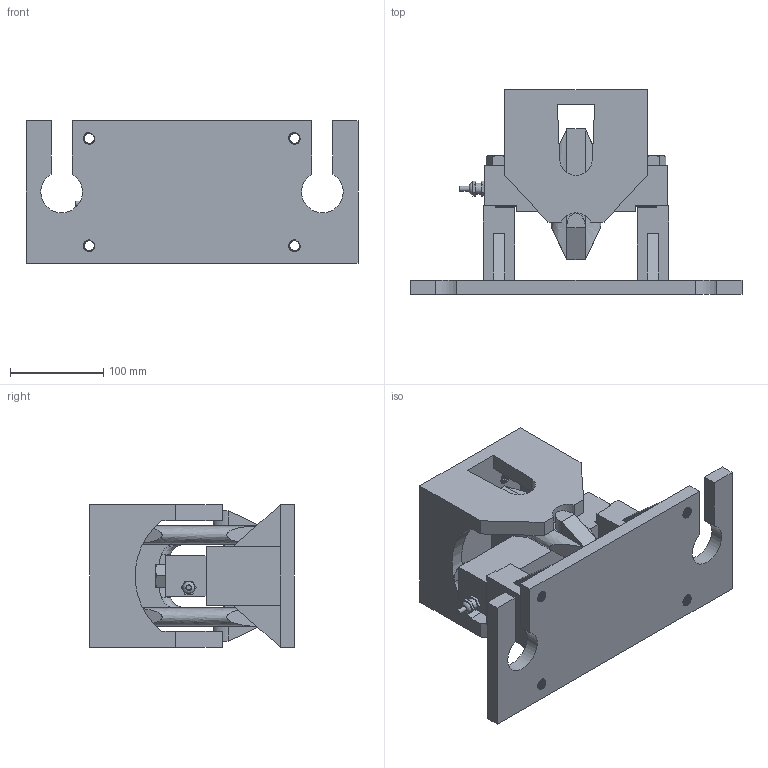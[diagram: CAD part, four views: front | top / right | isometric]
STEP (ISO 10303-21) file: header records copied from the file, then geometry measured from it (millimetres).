
FILE_DESCRIPTION(/* description */ (''),/* implementation_level */ '2;1');
FILE_NAME(/* name */ 'C:/Users/fardi/Dropbox/Work/Anyload/Load Cell Models/Product Catalog 3D/Weight Modules/102/102BHM1/102BHM1-(10-25)klb v11.step',/* time_stamp */ '2020-04-02T11:34:48-07:00',/* author */ (''),/* organization */ (''),/* preprocessor_version */ 'ST-DEVELOPER v18',/* originating_system */ 'Autodesk Translation Framework v8.12.0.6',/* authorisation */ '');
FILE_SCHEMA (('AUTOMOTIVE_DESIGN { 1 0 10303 214 3 1 1 }'));
Products named in the file (8): 102BHM1-(10-25)klb; Base; 102BH-(10-25)klb; Connector; 91257A804; 91257A804(Mirror); Middle Piece; Top Piece
Assembly tree (7 placements, depth 3):
  102BHM1-(10-25)klb
    Base
    102BH-(10-25)klb
      Connector
    91257A804
    91257A804(Mirror)
    Middle Piece
    Top Piece
Bounding box: 355.6 x 219 x 152.4 mm (x, y, z)
Volume: 2840178.9 mm3; surface area: 418693.1 mm2
Topology: 7 solids, 7 shells, 595 faces, 1609 edges, 1043 vertices
Faces by surface type: cylinder 356, plane 177, bspline 41, cone 21
Full cylindrical faces by diameter (mm): 5.1 x1, 10 x1, 10.808 x28, 12 x2, 12.7 x28, 12.875 x30, 13 x1, 13.627 x80, 15.875 x100, 17.272 x2
Entity records: 50031 total; most frequent: CARTESIAN_POINT 36216, ORIENTED_EDGE 3216, DIRECTION 2273, EDGE_CURVE 1608, VERTEX_POINT 1043, AXIS2_PLACEMENT_3D 771, LINE 731, VECTOR 731
